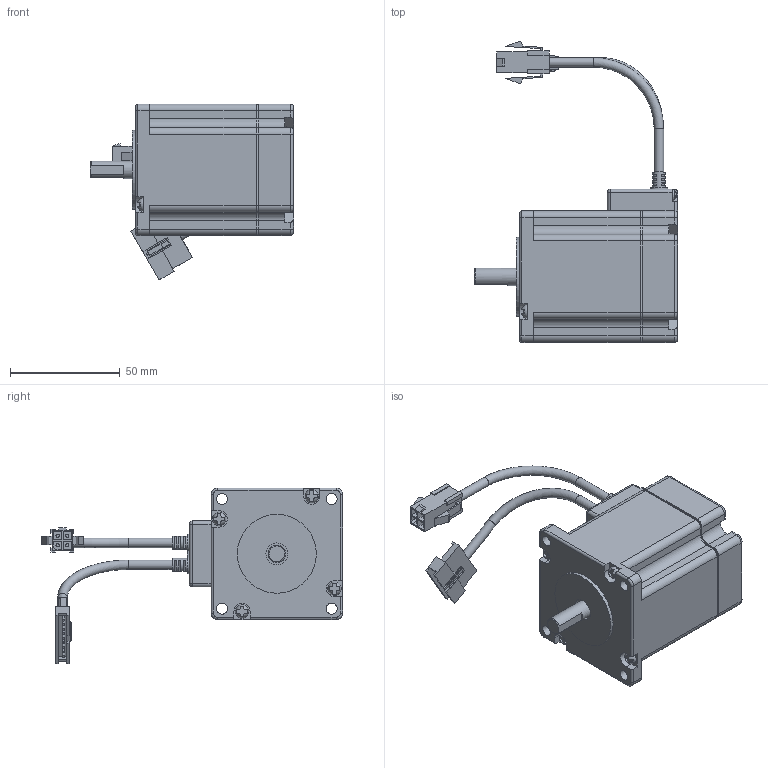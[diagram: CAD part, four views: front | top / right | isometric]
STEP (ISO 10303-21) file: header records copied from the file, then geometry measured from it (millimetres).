
FILE_DESCRIPTION(/* description */ (''),/* implementation_level */ '2;1');
FILE_NAME(/* name */ '\\EMN0D5F01\rp_inventor\RP Mechanical Design\Wiley\Updated Models\eCLM-P602A.stp',/* time_stamp */ '2016-10-27T15:24:16-07:00',/* author */ ('JDB'),/* organization */ ('Parker Hannifin Corp'),/* preprocessor_version */ 'ST-DEVELOPER v15.2',/* originating_system */ 'Autodesk Inventor 2014',/* authorisation */ '');
FILE_SCHEMA (('CONFIG_CONTROL_DESIGN'));
Length unit declared in the file: inch
Products named in the file (1): eCLM-P602A_sw
Bounding box: 92.6 x 137.41 x 80.22 mm (x, y, z)
Volume: 207996.1 mm3; surface area: 47909.8 mm2
Topology: 3 solids, 3 shells, 876 faces, 2287 edges, 1471 vertices
Faces by surface type: plane 590, cylinder 200, cone 34, torus 26, bspline 14, sphere 12
Full cylindrical faces by diameter (mm): 1 x9, 1.5 x4, 1.6 x4, 2.1 x4, 2.3 x2, 2.4 x7, 4 x5, 4.3 x4, 5 x5, 6 x4, 8 x3, 9.2 x1, 10 x1, 17.5 x1, 36 x1
Entity records: 26754 total; most frequent: CARTESIAN_POINT 5418, DIRECTION 4467, ORIENTED_EDGE 4336, EDGE_CURVE 2166, AXIS2_PLACEMENT_3D 1535, VERTEX_POINT 1433, LINE 1397, VECTOR 1397
